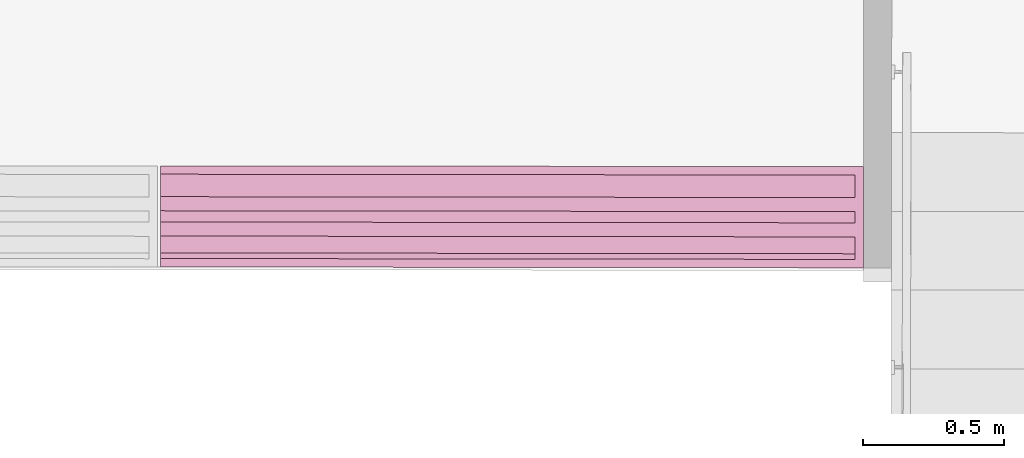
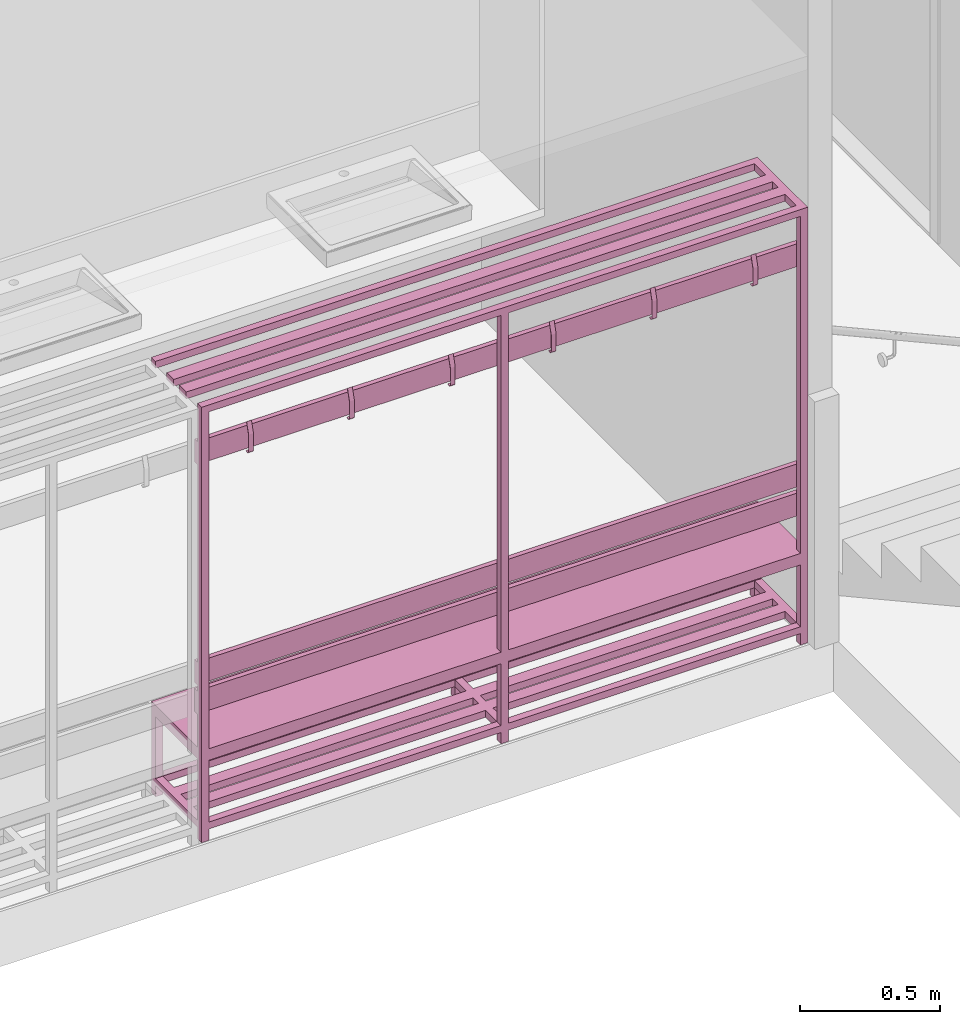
# One storey, part 37 of 43: 1 furnishing.
"""IFC2X3 building model written with IfcOpenShell, lengths in metres."""

from ifc_helpers import new_model, entity, si_unit, converted_unit, derived_unit, direction, frame, frame_2d, origin, origin_2d_with_axis, place, context, subcontext, project, spatial, polyline, circle_curve, parameter, trimmed, segment, composite_curve, rectangle, outline, extrude, source, transform, mapped, material, material_list, type_object, type_shapes, element, save


model = new_model("IFC2X3")

# Units and contexts
model_context = context("Model", 3, precision=1e-05, world=origin(), true_north=direction((6.123233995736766e-17, 1.0)))
body_context = subcontext(model_context, "Body", "Model", "MODEL_VIEW")
ifc_project = project(units=[si_unit("LENGTHUNIT", "METRE"), si_unit("AREAUNIT", "SQUARE_METRE"), converted_unit("PLANEANGLEUNIT", "DEGREE", entity("IfcPlaneAngleMeasure", 0.017453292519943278), si_unit("PLANEANGLEUNIT", "RADIAN"), dimensions=[0, 0, 0, 0, 0, 0, 0]), derived_unit("THERMALTRANSMITTANCEUNIT", [(si_unit("MASSUNIT", "GRAM", prefix="KILO"), 1), (si_unit("THERMODYNAMICTEMPERATUREUNIT", "KELVIN"), -1), (si_unit("TIMEUNIT", "SECOND"), -3)])], contexts=[model_context])

# Site, building, storey
site_placement = place(None, frame((1253.6752467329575, 2072.143113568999, 91.49999999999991), z_axis=(0.0, 0.0, 1.0), x_axis=(0.7237211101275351, 0.6900925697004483, 0.0)))
site = spatial("IfcSite", under=ifc_project, at=site_placement, Name="Surface", CompositionType="ELEMENT")
building_placement = place(site_placement, origin())
building = spatial("IfcBuilding", under=site, at=building_placement, CompositionType="ELEMENT")
storey_placement = place(building_placement, frame((0.0, 0.0, -4.629999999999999)))
storey = spatial("IfcBuildingStorey", under=building, at=storey_placement, Name="rez de rue -1.10m", CompositionType="ELEMENT", Elevation=-4.629999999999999)

# Furnishing
ifc_material_1 = material(Name="Peinture - Grise")
ifc_material_2 = material(Name="<Unnamed>")
ifc_material_3 = material(Name="mat2")
ifc_material_list = material_list([ifc_material_1, ifc_material_2, ifc_material_3])
furniture_type = type_object("IfcFurnitureType", Name="bancpateres:bancpateres", AssemblyPlace="NOTDEFINED", material=ifc_material_list)
shared_shape = source(origin(), body_context, "Body", "SweptSolid", [
    extrude(outline(composite_curve([segment(polyline([(0.022484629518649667, -0.01590042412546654), (0.07301844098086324, -0.01590042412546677)]), True, "CONTINUOUS"), segment(polyline([(0.07301844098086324, -0.01590042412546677), (0.07301844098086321, -0.014900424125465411)]), True, "CONTINUOUS"), segment(polyline([(0.07301844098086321, -0.014900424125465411), (0.02263224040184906, -0.014900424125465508)]), True, "CONTINUOUS"), segment(polyline([(0.02263224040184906, -0.014900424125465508), (-0.04718504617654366, 0.006170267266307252)]), True, "CONTINUOUS"), segment(trimmed(circle_curve(frame_2d((-0.044350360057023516, 0.015562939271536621), x_axis=(0.9573513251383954, -0.28892635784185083)), 0.009811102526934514), [parameter(129.00000000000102)], [parameter(269.9999999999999)], True, "PARAMETER"), False, "CONTINUOUS"), segment(polyline([(-0.048058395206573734, 0.02464634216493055), (-0.04843633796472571, 0.025572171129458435)]), True, "CONTINUOUS"), segment(trimmed(circle_curve(frame_2d((-0.044350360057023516, 0.015562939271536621), x_axis=(0.9573513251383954, -0.28892635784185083)), 0.010811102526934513), [parameter(129.0000000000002)], [parameter(269.9999999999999)], True, "PARAMETER"), True, "CONTINUOUS"), segment(polyline([(-0.04747397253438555, 0.005212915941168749), (0.022484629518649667, -0.01590042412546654)]), True, "CONTINUOUS")], self_intersect=False)), frame((0.3280670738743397, 0.4912741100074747, 6.308572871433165), z_axis=(1.0, 0.0, 0.0), x_axis=(0.0, -0.28892635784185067, 0.957351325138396)), (0.0, 0.0, 1.0), 0.019999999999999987),
    extrude(outline(composite_curve([segment(polyline([(0.022484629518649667, -0.01590042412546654), (0.07301844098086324, -0.01590042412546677)]), True, "CONTINUOUS"), segment(polyline([(0.07301844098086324, -0.01590042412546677), (0.07301844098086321, -0.014900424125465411)]), True, "CONTINUOUS"), segment(polyline([(0.07301844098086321, -0.014900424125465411), (0.02263224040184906, -0.014900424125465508)]), True, "CONTINUOUS"), segment(polyline([(0.02263224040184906, -0.014900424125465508), (-0.04718504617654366, 0.006170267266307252)]), True, "CONTINUOUS"), segment(trimmed(circle_curve(frame_2d((-0.044350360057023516, 0.015562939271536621), x_axis=(0.9573513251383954, -0.28892635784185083)), 0.009811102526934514), [parameter(129.00000000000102)], [parameter(269.9999999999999)], True, "PARAMETER"), False, "CONTINUOUS"), segment(polyline([(-0.048058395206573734, 0.02464634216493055), (-0.04843633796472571, 0.025572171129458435)]), True, "CONTINUOUS"), segment(trimmed(circle_curve(frame_2d((-0.044350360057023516, 0.015562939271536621), x_axis=(0.9573513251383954, -0.28892635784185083)), 0.010811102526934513), [parameter(129.0000000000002)], [parameter(269.9999999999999)], True, "PARAMETER"), True, "CONTINUOUS"), segment(polyline([(-0.04747397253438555, 0.005212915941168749), (0.022484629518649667, -0.01590042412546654)]), True, "CONTINUOUS")], self_intersect=False)), frame((-0.08793292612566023, 0.4912741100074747, 6.308572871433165), z_axis=(1.0, 0.0, 0.0), x_axis=(0.0, -0.28892635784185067, 0.957351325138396)), (0.0, 0.0, 1.0), 0.020000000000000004),
    extrude(outline(composite_curve([segment(polyline([(0.022484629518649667, -0.01590042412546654), (0.07301844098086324, -0.01590042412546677)]), True, "CONTINUOUS"), segment(polyline([(0.07301844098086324, -0.01590042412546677), (0.07301844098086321, -0.014900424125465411)]), True, "CONTINUOUS"), segment(polyline([(0.07301844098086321, -0.014900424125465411), (0.02263224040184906, -0.014900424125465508)]), True, "CONTINUOUS"), segment(polyline([(0.02263224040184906, -0.014900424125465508), (-0.04718504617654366, 0.006170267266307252)]), True, "CONTINUOUS"), segment(trimmed(circle_curve(frame_2d((-0.044350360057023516, 0.015562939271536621), x_axis=(0.9573513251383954, -0.28892635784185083)), 0.009811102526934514), [parameter(129.00000000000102)], [parameter(269.9999999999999)], True, "PARAMETER"), False, "CONTINUOUS"), segment(polyline([(-0.048058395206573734, 0.02464634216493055), (-0.04843633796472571, 0.025572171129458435)]), True, "CONTINUOUS"), segment(trimmed(circle_curve(frame_2d((-0.044350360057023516, 0.015562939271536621), x_axis=(0.9573513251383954, -0.28892635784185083)), 0.010811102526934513), [parameter(129.0000000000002)], [parameter(269.9999999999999)], True, "PARAMETER"), True, "CONTINUOUS"), segment(polyline([(-0.04747397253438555, 0.005212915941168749), (0.022484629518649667, -0.01590042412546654)]), True, "CONTINUOUS")], self_intersect=False)), frame((-0.5039329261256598, 0.4912741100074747, 6.308572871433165), z_axis=(1.0, 0.0, 0.0), x_axis=(0.0, -0.28892635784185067, 0.957351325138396)), (0.0, 0.0, 1.0), 0.019999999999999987),
    extrude(outline(composite_curve([segment(polyline([(0.022484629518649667, -0.01590042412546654), (0.07301844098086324, -0.01590042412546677)]), True, "CONTINUOUS"), segment(polyline([(0.07301844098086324, -0.01590042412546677), (0.07301844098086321, -0.014900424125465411)]), True, "CONTINUOUS"), segment(polyline([(0.07301844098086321, -0.014900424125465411), (0.02263224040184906, -0.014900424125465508)]), True, "CONTINUOUS"), segment(polyline([(0.02263224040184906, -0.014900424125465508), (-0.04718504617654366, 0.006170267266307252)]), True, "CONTINUOUS"), segment(trimmed(circle_curve(frame_2d((-0.044350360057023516, 0.015562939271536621), x_axis=(0.9573513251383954, -0.28892635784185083)), 0.009811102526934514), [parameter(129.00000000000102)], [parameter(269.9999999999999)], True, "PARAMETER"), False, "CONTINUOUS"), segment(polyline([(-0.048058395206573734, 0.02464634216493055), (-0.04843633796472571, 0.025572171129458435)]), True, "CONTINUOUS"), segment(trimmed(circle_curve(frame_2d((-0.044350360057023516, 0.015562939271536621), x_axis=(0.9573513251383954, -0.28892635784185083)), 0.010811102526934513), [parameter(129.0000000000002)], [parameter(269.9999999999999)], True, "PARAMETER"), True, "CONTINUOUS"), segment(polyline([(-0.04747397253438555, 0.005212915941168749), (0.022484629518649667, -0.01590042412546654)]), True, "CONTINUOUS")], self_intersect=False)), frame((-0.9199329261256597, 0.4912741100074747, 6.308572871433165), z_axis=(1.0, 0.0, 0.0), x_axis=(0.0, -0.28892635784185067, 0.957351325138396)), (0.0, 0.0, 1.0), 0.020000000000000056),
    extrude(outline(composite_curve([segment(polyline([(0.022484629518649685, -0.015900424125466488), (0.07301844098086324, -0.01590042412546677)]), True, "CONTINUOUS"), segment(polyline([(0.07301844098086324, -0.01590042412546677), (0.07301844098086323, -0.014900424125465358)]), True, "CONTINUOUS"), segment(polyline([(0.07301844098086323, -0.014900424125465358), (0.022632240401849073, -0.014900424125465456)]), True, "CONTINUOUS"), segment(polyline([(0.022632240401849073, -0.014900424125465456), (-0.047185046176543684, 0.0061702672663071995)]), True, "CONTINUOUS"), segment(trimmed(circle_curve(frame_2d((-0.0443503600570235, 0.015562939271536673), x_axis=(0.9573513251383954, -0.2889263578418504)), 0.009811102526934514), [parameter(129.00000000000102)], [parameter(269.9999999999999)], True, "PARAMETER"), False, "CONTINUOUS"), segment(polyline([(-0.048058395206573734, 0.02464634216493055), (-0.0484363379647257, 0.02557217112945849)]), True, "CONTINUOUS"), segment(trimmed(circle_curve(frame_2d((-0.0443503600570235, 0.015562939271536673), x_axis=(0.9573513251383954, -0.2889263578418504)), 0.010811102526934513), [parameter(129.0000000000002)], [parameter(269.9999999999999)], True, "PARAMETER"), True, "CONTINUOUS"), segment(polyline([(-0.04747397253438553, 0.005212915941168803), (0.022484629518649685, -0.015900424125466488)]), True, "CONTINUOUS")], self_intersect=False)), frame((0.7440670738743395, 0.4912741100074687, 6.308572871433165), z_axis=(1.0, 0.0, 0.0), x_axis=(0.0, -0.28892635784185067, 0.957351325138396)), (0.0, 0.0, 1.0), 0.020000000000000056),
    extrude(outline(composite_curve([segment(polyline([(0.0224846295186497, -0.015900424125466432), (0.07301844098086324, -0.01590042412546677)]), True, "CONTINUOUS"), segment(polyline([(0.07301844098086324, -0.01590042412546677), (0.07301844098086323, -0.014900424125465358)]), True, "CONTINUOUS"), segment(polyline([(0.07301844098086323, -0.014900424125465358), (0.022632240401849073, -0.014900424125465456)]), True, "CONTINUOUS"), segment(polyline([(0.022632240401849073, -0.014900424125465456), (-0.047185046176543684, 0.0061702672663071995)]), True, "CONTINUOUS"), segment(trimmed(circle_curve(frame_2d((-0.044350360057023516, 0.015562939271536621), x_axis=(0.9573513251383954, -0.28892635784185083)), 0.009811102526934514), [parameter(129.00000000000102)], [parameter(269.9999999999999)], True, "PARAMETER"), False, "CONTINUOUS"), segment(polyline([(-0.048058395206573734, 0.02464634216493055), (-0.0484363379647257, 0.02557217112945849)]), True, "CONTINUOUS"), segment(trimmed(circle_curve(frame_2d((-0.044350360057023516, 0.015562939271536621), x_axis=(0.9573513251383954, -0.28892635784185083)), 0.010811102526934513), [parameter(129.0000000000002)], [parameter(269.9999999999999)], True, "PARAMETER"), True, "CONTINUOUS"), segment(polyline([(-0.04747397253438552, 0.005212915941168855), (0.0224846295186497, -0.015900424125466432)]), True, "CONTINUOUS")], self_intersect=False)), frame((-1.3359329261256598, 0.4912741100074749, 6.308572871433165), z_axis=(1.0, 0.0, 0.0), x_axis=(0.0, -0.28892635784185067, 0.957351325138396)), (0.0, 0.0, 1.0), 0.020000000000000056),
    extrude(rectangle(XDim=0.030000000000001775, YDim=0.3599999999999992, at=frame_2d((-6.774095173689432e-16, 5.412337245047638e-16), x_axis=(1.0, 0.0))), frame((-0.2859329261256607, 0.33000000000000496, 4.679999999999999), z_axis=(0.0, 0.0, 1.0), x_axis=(-1.0, 0.0, 0.0)), (0.0, 0.0, 1.0), 0.03),
    extrude(rectangle(XDim=0.020000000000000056, YDim=2.499999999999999, at=origin_2d_with_axis()), frame((-0.2859329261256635, 0.470000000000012, 6.261999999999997), z_axis=(0.0, 0.0, 1.0), x_axis=(0.0, 1.0, 0.0)), (0.0, 0.0, 1.0), 0.1),
    extrude(rectangle(XDim=0.01999999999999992, YDim=2.499999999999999, at=origin_2d_with_axis()), frame((-0.2859329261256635, 0.4700000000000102, 5.300999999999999), z_axis=(0.0, 0.0, 1.0), x_axis=(0.0, 1.0, 0.0)), (0.0, 0.0, 1.0), 0.09999999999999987),
    extrude(rectangle(XDim=0.020000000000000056, YDim=2.499999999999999, at=origin_2d_with_axis()), frame((-0.2859329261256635, 0.47000000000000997, 5.173999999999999), z_axis=(0.0, 0.0, 1.0), x_axis=(0.0, 1.0, 0.0)), (0.0, 0.0, 1.0), 0.09999999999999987),
    extrude(rectangle(XDim=0.030000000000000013, YDim=0.02999999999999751, at=frame_2d((3.382710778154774e-17, 0.0), x_axis=(1.0, 0.0))), frame((-0.2859329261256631, 0.495000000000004, 4.629999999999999), z_axis=(0.0, 0.0, 1.0), x_axis=(0.0, 1.0, 0.0)), (0.0, 0.0, 1.0), 1.9000000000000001),
    extrude(rectangle(XDim=0.02999999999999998, YDim=0.02999999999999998, at=frame_2d((-1.734723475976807e-17, 1.734723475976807e-17), x_axis=(1.0, 0.0))), frame((-0.28593292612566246, 0.16500000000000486, 4.629999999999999), z_axis=(0.0, 0.0, 1.0), x_axis=(0.0, 1.0, 0.0)), (0.0, 0.0, 1.0), 0.38000000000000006),
    extrude(rectangle(XDim=0.1, YDim=2.499999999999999, at=origin_2d_with_axis()), frame((-0.2859329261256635, 0.46000000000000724, 5.009999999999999), z_axis=(0.0, 0.0, 1.0), x_axis=(0.0, 1.0, 0.0)), (0.0, 0.0, 1.0), 0.019999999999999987),
    extrude(rectangle(XDim=0.1, YDim=2.499999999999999, at=origin_2d_with_axis()), frame((-0.2859329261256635, 0.40000000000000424, 5.009999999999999), z_axis=(0.0, 0.0, 1.0), x_axis=(0.0, 1.0, 0.0)), (0.0, 0.0, 1.0), 0.019999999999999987),
    extrude(rectangle(XDim=0.10000000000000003, YDim=2.499999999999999, at=frame_2d((-1.734723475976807e-17, 0.0), x_axis=(1.0, 0.0))), frame((-0.2859329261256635, 0.3000000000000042, 5.009999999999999), z_axis=(0.0, 0.0, 1.0), x_axis=(0.0, 1.0, 0.0)), (0.0, 0.0, 1.0), 0.019999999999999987),
    extrude(rectangle(XDim=0.1, YDim=2.499999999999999, at=origin_2d_with_axis()), frame((-0.2859329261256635, 0.20000000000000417, 5.009999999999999), z_axis=(0.0, 0.0, 1.0), x_axis=(0.0, 1.0, 0.0)), (0.0, 0.0, 1.0), 0.019999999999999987),
    extrude(rectangle(XDim=0.029999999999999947, YDim=0.3600000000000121, at=frame_2d((-1.3530843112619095e-16, 0.0), x_axis=(1.0, 0.0))), frame((-1.5209329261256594, 0.3300000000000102, 4.979999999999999), z_axis=(0.0, 0.0, 1.0), x_axis=(-1.0, 0.0, 0.0)), (0.0, 0.0, 1.0), 0.030000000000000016),
    extrude(rectangle(XDim=0.03000000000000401, YDim=0.36000000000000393, at=frame_2d((0.0, 2.7755575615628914e-17), x_axis=(1.0, 0.0))), frame((0.9490670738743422, 0.3299999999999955, 4.979999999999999), z_axis=(0.0, 0.0, 1.0), x_axis=(-1.0, 0.0, 0.0)), (0.0, 0.0, 1.0), 0.030000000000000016),
    extrude(rectangle(XDim=0.030000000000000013, YDim=2.499999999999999, at=frame_2d((-3.382710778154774e-17, 1.1102230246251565e-16), x_axis=(1.0, 0.0))), frame((-0.285932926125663, 0.49500000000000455, 4.979999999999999), z_axis=(0.0, 0.0, 1.0), x_axis=(0.0, 1.0, 0.0)), (0.0, 0.0, 1.0), 0.030000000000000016),
    extrude(rectangle(XDim=0.02999999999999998, YDim=2.499999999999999, at=frame_2d((-1.734723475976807e-17, -1.1102230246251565e-16), x_axis=(1.0, 0.0))), frame((-0.2859329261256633, 0.16500000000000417, 4.979999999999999), z_axis=(0.0, 0.0, 1.0), x_axis=(0.0, 1.0, 0.0)), (0.0, 0.0, 1.0), 0.030000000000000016),
    extrude(rectangle(XDim=0.030000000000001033, YDim=0.3600000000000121, at=frame_2d((-1.3617579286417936e-16, 0.0), x_axis=(1.0, 0.0))), frame((-1.5209329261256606, 0.3300000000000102, 4.679999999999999), z_axis=(0.0, 0.0, 1.0), x_axis=(-1.0, 0.0, 0.0)), (0.0, 0.0, 1.0), 0.03),
    extrude(rectangle(XDim=0.029999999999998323, YDim=0.36000000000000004, at=origin_2d_with_axis()), frame((0.949067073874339, 0.3299999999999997, 4.679999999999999), z_axis=(0.0, 0.0, 1.0), x_axis=(-1.0, 0.0, 0.0)), (0.0, 0.0, 1.0), 0.03),
    extrude(rectangle(XDim=2.499999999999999, YDim=0.0499999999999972, at=frame_2d((0.0, 1.734723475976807e-17), x_axis=(1.0, 0.0))), frame((-0.2859329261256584, 0.28500000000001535, 4.679999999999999), z_axis=(0.0, 0.0, 1.0), x_axis=(-1.0, 0.0, 0.0)), (0.0, 0.0, 1.0), 0.03),
    extrude(rectangle(XDim=2.499999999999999, YDim=0.0499999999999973, at=origin_2d_with_axis()), frame((-0.28593292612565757, 0.3750000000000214, 4.679999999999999), z_axis=(0.0, 0.0, 1.0), x_axis=(-1.0, 0.0, 0.0)), (0.0, 0.0, 1.0), 0.03),
    extrude(rectangle(XDim=0.030000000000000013, YDim=2.499999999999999, at=frame_2d((-3.382710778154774e-17, 0.0), x_axis=(1.0, 0.0))), frame((-0.2859329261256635, 0.49500000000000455, 4.679999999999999), z_axis=(0.0, 0.0, 1.0), x_axis=(0.0, 1.0, 0.0)), (0.0, 0.0, 1.0), 0.03),
    extrude(rectangle(XDim=0.02999999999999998, YDim=2.499999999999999, at=frame_2d((-1.734723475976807e-17, 0.0), x_axis=(1.0, 0.0))), frame((-0.2859329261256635, 0.16500000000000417, 4.679999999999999), z_axis=(0.0, 0.0, 1.0), x_axis=(0.0, 1.0, 0.0)), (0.0, 0.0, 1.0), 0.03),
    extrude(rectangle(XDim=0.030000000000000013, YDim=0.030000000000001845, at=frame_2d((3.382710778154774e-17, 0.0), x_axis=(1.0, 0.0))), frame((0.9490670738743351, 0.4950000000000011, 4.629999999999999), z_axis=(0.0, 0.0, 1.0), x_axis=(0.0, 1.0, 0.0)), (0.0, 0.0, 1.0), 1.9000000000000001),
    extrude(rectangle(XDim=0.02999999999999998, YDim=0.03000000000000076, at=frame_2d((-1.734723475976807e-17, 0.0), x_axis=(1.0, 0.0))), frame((0.9490670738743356, 0.16500000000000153, 4.629999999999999), z_axis=(0.0, 0.0, 1.0), x_axis=(0.0, 1.0, 0.0)), (0.0, 0.0, 1.0), 0.38000000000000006),
    extrude(rectangle(XDim=0.030000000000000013, YDim=0.029999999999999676, at=frame_2d((3.382710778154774e-17, 0.0), x_axis=(1.0, 0.0))), frame((-1.5209329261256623, 0.49500000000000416, 4.629999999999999), z_axis=(0.0, 0.0, 1.0), x_axis=(0.0, 1.0, 0.0)), (0.0, 0.0, 1.0), 1.9000000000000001),
    extrude(rectangle(XDim=0.02999999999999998, YDim=0.029999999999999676, at=frame_2d((-1.734723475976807e-17, 0.0), x_axis=(1.0, 0.0))), frame((-1.520932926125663, 0.16500000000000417, 4.629999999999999), z_axis=(0.0, 0.0, 1.0), x_axis=(0.0, 1.0, 0.0)), (0.0, 0.0, 1.0), 0.38000000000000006),
    extrude(rectangle(XDim=0.029999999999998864, YDim=0.3600000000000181, at=frame_2d((-1.3530843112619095e-16, 0.0), x_axis=(1.0, 0.0))), frame((-1.5209329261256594, 0.3300000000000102, 6.499999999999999), z_axis=(0.0, 0.0, 1.0), x_axis=(-1.0, 0.0, 0.0)), (0.0, 0.0, 1.0), 0.029999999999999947),
    extrude(rectangle(XDim=2.499999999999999, YDim=0.04999999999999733, at=frame_2d((0.0, 1.734723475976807e-17), x_axis=(1.0, 0.0))), frame((-0.28593292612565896, 0.28500000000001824, 6.499999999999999), z_axis=(0.0, 0.0, 1.0), x_axis=(-1.0, 0.0, 0.0)), (0.0, 0.0, 1.0), 0.029999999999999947),
    extrude(rectangle(XDim=2.4999999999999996, YDim=0.0499999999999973, at=origin_2d_with_axis()), frame((-0.28593292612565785, 0.3750000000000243, 6.499999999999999), z_axis=(0.0, 0.0, 1.0), x_axis=(-1.0, 0.0, 0.0)), (0.0, 0.0, 1.0), 0.029999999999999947),
    extrude(rectangle(XDim=0.030000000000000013, YDim=2.499999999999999, at=frame_2d((3.382710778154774e-17, -1.1102230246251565e-16), x_axis=(1.0, 0.0))), frame((-0.2859329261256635, 0.4950000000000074, 6.499999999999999), z_axis=(0.0, 0.0, 1.0), x_axis=(0.0, 1.0, 0.0)), (0.0, 0.0, 1.0), 0.029999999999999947),
    extrude(rectangle(XDim=0.02999999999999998, YDim=2.499999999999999, at=frame_2d((-1.734723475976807e-17, 1.1102230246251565e-16), x_axis=(1.0, 0.0))), frame((-0.2859329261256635, 0.16500000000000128, 6.499999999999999), z_axis=(0.0, 0.0, 1.0), x_axis=(0.0, 1.0, 0.0)), (0.0, 0.0, 1.0), 0.029999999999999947),
])
type_shapes(furniture_type, [shared_shape])
furnishing_placement = place(storey_placement, frame((162.30966072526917, -0.3998319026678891, -4.629999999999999), z_axis=(0.0, 0.0, 1.0), x_axis=(-0.7228702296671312, 0.6909838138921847, 0.0)))
element("IfcFurnishingElement", 1, at=furnishing_placement, inside=storey, type_object=furniture_type, material=ifc_material_list, Name="bancpateres:bancpateres", ObjectType="bancpateres:bancpateres", context=body_context, shape_type="MappedRepresentation", body=[
    mapped(shared_shape, transform((0.0, 0.0, 0.0), scale=1.0)),
])

save(model, "model.ifc")
